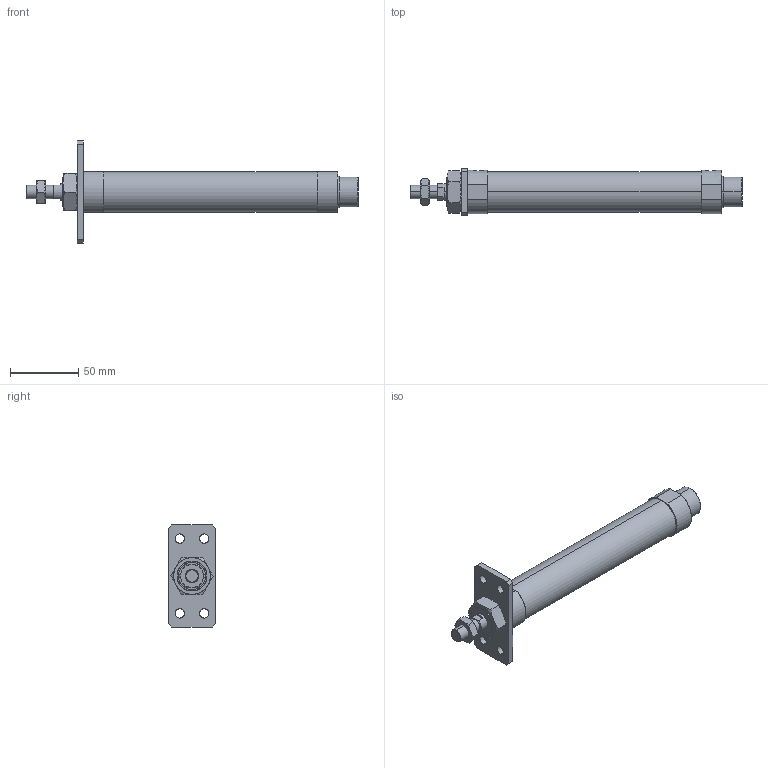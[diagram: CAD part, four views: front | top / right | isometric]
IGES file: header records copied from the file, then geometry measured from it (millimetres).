
Start section: SolidWorks IGES file using analytic representation for surfaces
Global section: file name: C:\Users\Toshiba\Desktop\J#2-25-125-A.IGS; native system: SolidWorks 2014; preprocessor: SolidWorks 2014; author: Toshiba; date: 160308.152419; units: millimetre
Bounding box: 244 x 35 x 75 mm (x, y, z)
Surface area: 32500.1 mm2 (no closed solid volume)
Topology: 0 solids, 0 shells, 117 faces, 2152 edges, 2148 vertices
Faces by surface type: bspline 71, revolution 46
